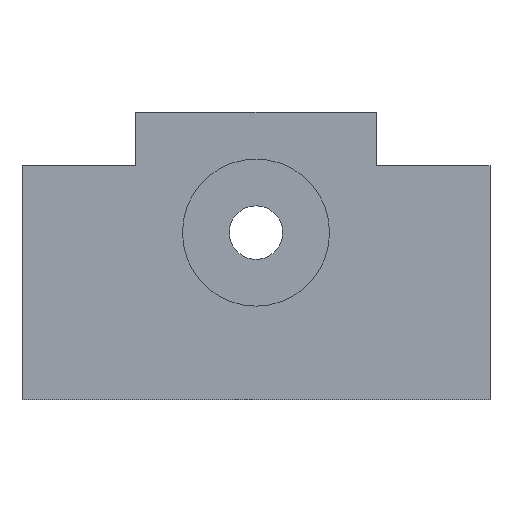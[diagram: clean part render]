
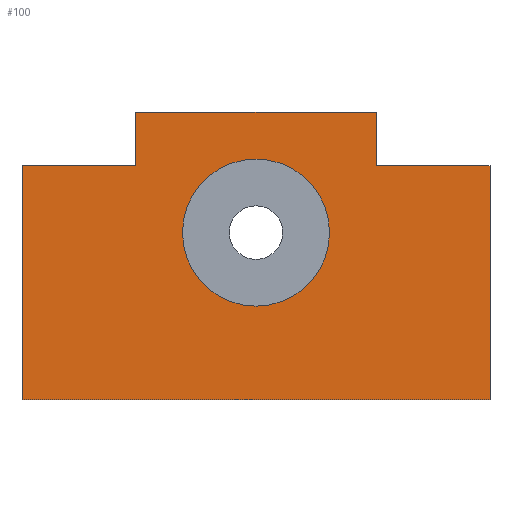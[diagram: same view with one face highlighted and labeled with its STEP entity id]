
A CAD part, left-side view. The second image highlights one B-rep face of the part: STEP entity #100.
In plain terms, the highlighted planar face has unit normal (-1, 0, 0).
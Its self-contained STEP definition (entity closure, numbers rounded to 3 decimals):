
#100=ADVANCED_FACE('',(#155,#156),#117,.F.);
#117=PLANE('',#423);
#129=CIRCLE('',#422,11.);
#155=FACE_BOUND('',#193,.T.);
#156=FACE_BOUND('',#194,.T.);
#193=EDGE_LOOP('',(#262,#263,#264,#265,#266,#267,#268,#269));
#194=EDGE_LOOP('',(#270));
#262=ORIENTED_EDGE('',*,*,#337,.F.);
#263=ORIENTED_EDGE('',*,*,#335,.F.);
#264=ORIENTED_EDGE('',*,*,#332,.F.);
#265=ORIENTED_EDGE('',*,*,#330,.F.);
#266=ORIENTED_EDGE('',*,*,#328,.F.);
#267=ORIENTED_EDGE('',*,*,#326,.F.);
#268=ORIENTED_EDGE('',*,*,#323,.F.);
#269=ORIENTED_EDGE('',*,*,#321,.F.);
#270=ORIENTED_EDGE('',*,*,#344,.T.);
#290=VERTEX_POINT('',#556);
#291=VERTEX_POINT('',#558);
#292=VERTEX_POINT('',#562);
#294=VERTEX_POINT('',#568);
#295=VERTEX_POINT('',#572);
#296=VERTEX_POINT('',#576);
#297=VERTEX_POINT('',#580);
#299=VERTEX_POINT('',#586);
#306=VERTEX_POINT('',#610);
#321=EDGE_CURVE('LINE',#290,#291,#358,.T.);
#323=EDGE_CURVE('LINE',#291,#292,#360,.T.);
#326=EDGE_CURVE('LINE',#292,#294,#362,.T.);
#328=EDGE_CURVE('LINE',#294,#295,#364,.T.);
#330=EDGE_CURVE('LINE',#295,#296,#366,.T.);
#332=EDGE_CURVE('LINE',#296,#297,#368,.T.);
#335=EDGE_CURVE('LINE',#297,#299,#370,.T.);
#337=EDGE_CURVE('LINE',#299,#290,#372,.T.);
#344=EDGE_CURVE('',#306,#306,#129,.T.);
#358=LINE('',#557,#382);
#360=LINE('',#561,#384);
#362=LINE('',#567,#386);
#364=LINE('',#571,#388);
#366=LINE('',#575,#390);
#368=LINE('',#579,#392);
#370=LINE('',#585,#394);
#372=LINE('',#589,#396);
#382=VECTOR('',#450,1.);
#384=VECTOR('',#454,1.);
#386=VECTOR('',#460,1.);
#388=VECTOR('',#464,1.);
#390=VECTOR('',#468,1.);
#392=VECTOR('',#472,1.);
#394=VECTOR('',#478,1.);
#396=VECTOR('',#482,1.);
#422=AXIS2_PLACEMENT_3D('',#609,#509,#510);
#423=AXIS2_PLACEMENT_3D('',#611,#511,#512);
#450=DIRECTION('',(0.,0.,1.));
#454=DIRECTION('',(0.,-1.,0.));
#460=DIRECTION('',(0.,0.,1.));
#464=DIRECTION('',(0.,-1.,0.));
#468=DIRECTION('',(0.,0.,-1.));
#472=DIRECTION('',(0.,-1.,0.));
#478=DIRECTION('',(0.,0.,-1.));
#482=DIRECTION('',(0.,1.,0.));
#509=DIRECTION('',(1.,0.,0.));
#510=DIRECTION('',(0.,0.,-1.));
#511=DIRECTION('',(1.,0.,0.));
#512=DIRECTION('',(0.,-1.,0.));
#556=CARTESIAN_POINT('',(-10.,35.,0.));
#557=CARTESIAN_POINT('',(-10.,35.,17.5));
#558=CARTESIAN_POINT('',(-10.,35.,35.));
#561=CARTESIAN_POINT('',(-10.,26.5,35.));
#562=CARTESIAN_POINT('',(-10.,18.,35.));
#567=CARTESIAN_POINT('',(-10.,18.,39.));
#568=CARTESIAN_POINT('',(-10.,18.,43.));
#571=CARTESIAN_POINT('',(-10.,0.,43.));
#572=CARTESIAN_POINT('',(-10.,-18.,43.));
#575=CARTESIAN_POINT('',(-10.,-18.,39.));
#576=CARTESIAN_POINT('',(-10.,-18.,35.));
#579=CARTESIAN_POINT('',(-10.,-26.5,35.));
#580=CARTESIAN_POINT('',(-10.,-35.,35.));
#585=CARTESIAN_POINT('',(-10.,-35.,17.5));
#586=CARTESIAN_POINT('',(-10.,-35.,0.));
#589=CARTESIAN_POINT('',(-10.,0.,0.));
#609=CARTESIAN_POINT('',(-10.,0.,25.));
#610=CARTESIAN_POINT('',(-10.,0.,14.));
#611=CARTESIAN_POINT('',(-10.,0.,0.));
